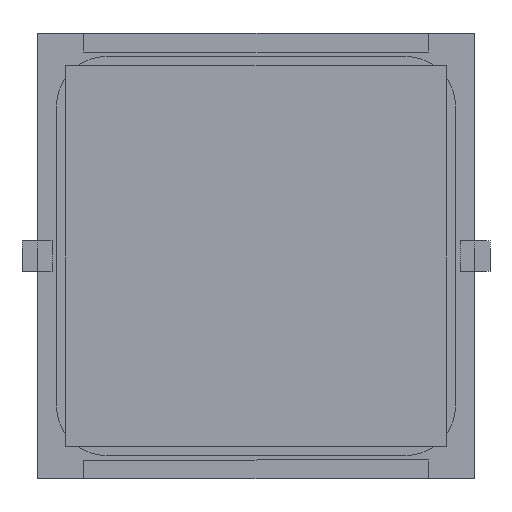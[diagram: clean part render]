
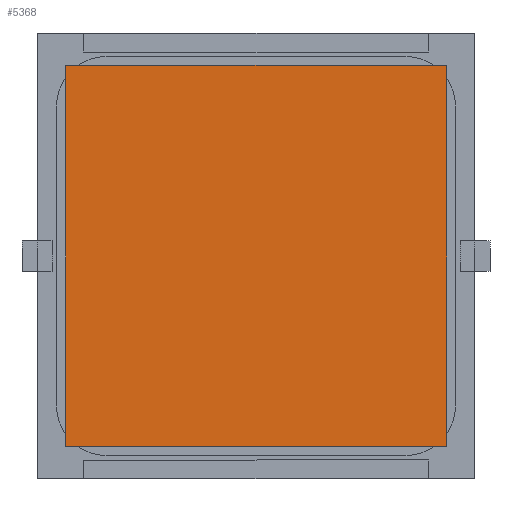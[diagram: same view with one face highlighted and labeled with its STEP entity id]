
A CAD part, front view. The second image highlights one B-rep face of the part: STEP entity #5368.
In plain terms, the highlighted planar face has unit normal (0, -1, 0).
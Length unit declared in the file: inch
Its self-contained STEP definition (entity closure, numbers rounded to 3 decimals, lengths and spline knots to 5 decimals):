
#42 = CARTESIAN_POINT ( 'NONE',  ( 0.5, -0.005, 0.5 ) ) ;
#196 = VERTEX_POINT ( 'NONE', #42 ) ;
#269 = VERTEX_POINT ( 'NONE', #6958 ) ;
#319 = DIRECTION ( 'NONE',  ( 0., 0., -1. ) ) ;
#512 = ORIENTED_EDGE ( 'NONE', *, *, #7703, .F. ) ;
#667 = CARTESIAN_POINT ( 'NONE',  ( -0.5, -0.005, -0.5 ) ) ;
#838 = CARTESIAN_POINT ( 'NONE',  ( -0.5, -0.005, -0.5 ) ) ;
#839 = DIRECTION ( 'NONE',  ( 0., 0., 1. ) ) ;
#905 = LINE ( 'NONE', #5772, #3692 ) ;
#1324 = VECTOR ( 'NONE', #2006, 39.37008 ) ;
#1469 = DIRECTION ( 'NONE',  ( 0., 0., 1. ) ) ;
#1576 = CARTESIAN_POINT ( 'NONE',  ( -0.5, -0.005, 0.5 ) ) ;
#1653 = DIRECTION ( 'NONE',  ( 1., 0., 0. ) ) ;
#1727 = VERTEX_POINT ( 'NONE', #7061 ) ;
#1819 = PLANE ( 'NONE',  #7065 ) ;
#2006 = DIRECTION ( 'NONE',  ( -1., 0., 0. ) ) ;
#2443 = VECTOR ( 'NONE', #1469, 39.37008 ) ;
#2538 = LINE ( 'NONE', #838, #1324 ) ;
#2756 = ORIENTED_EDGE ( 'NONE', *, *, #4699, .F. ) ;
#2811 = EDGE_LOOP ( 'NONE', ( #7620, #512, #2756, #6911 ) ) ;
#2887 = EDGE_CURVE ( 'NONE', #1727, #7153, #3675, .T. ) ;
#3217 = VECTOR ( 'NONE', #1653, 39.37008 ) ;
#3675 = LINE ( 'NONE', #667, #2443 ) ;
#3692 = VECTOR ( 'NONE', #319, 39.37008 ) ;
#3831 = CARTESIAN_POINT ( 'NONE',  ( -0.5, -0.005, 0.5 ) ) ;
#3843 = CARTESIAN_POINT ( 'NONE',  ( -0.5, -0.005, 0.5 ) ) ;
#4699 = EDGE_CURVE ( 'NONE', #196, #269, #905, .T. ) ;
#5368 = ADVANCED_FACE ( 'NONE', ( #5508 ), #1819, .F. ) ;
#5508 = FACE_OUTER_BOUND ( 'NONE', #2811, .T. ) ;
#5772 = CARTESIAN_POINT ( 'NONE',  ( 0.5, -0.005, -0.5 ) ) ;
#6050 = EDGE_CURVE ( 'NONE', #7153, #196, #7647, .T. ) ;
#6911 = ORIENTED_EDGE ( 'NONE', *, *, #6050, .F. ) ;
#6958 = CARTESIAN_POINT ( 'NONE',  ( 0.5, -0.005, -0.5 ) ) ;
#7061 = CARTESIAN_POINT ( 'NONE',  ( -0.5, -0.005, -0.5 ) ) ;
#7065 = AXIS2_PLACEMENT_3D ( 'NONE', #3843, #7607, #839 ) ;
#7153 = VERTEX_POINT ( 'NONE', #3831 ) ;
#7607 = DIRECTION ( 'NONE',  ( 0., 1., 0. ) ) ;
#7620 = ORIENTED_EDGE ( 'NONE', *, *, #2887, .F. ) ;
#7647 = LINE ( 'NONE', #1576, #3217 ) ;
#7703 = EDGE_CURVE ( 'NONE', #269, #1727, #2538, .T. ) ;
